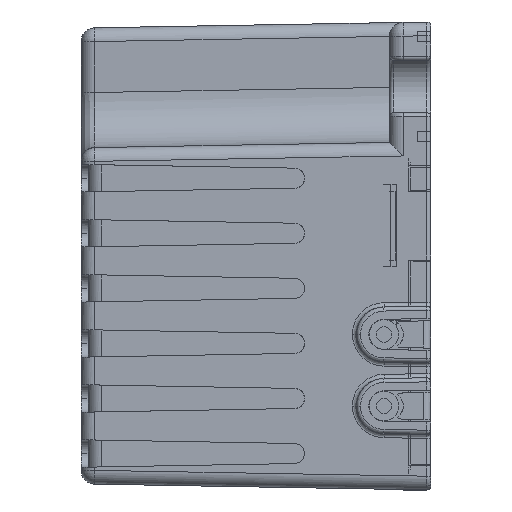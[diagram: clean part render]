
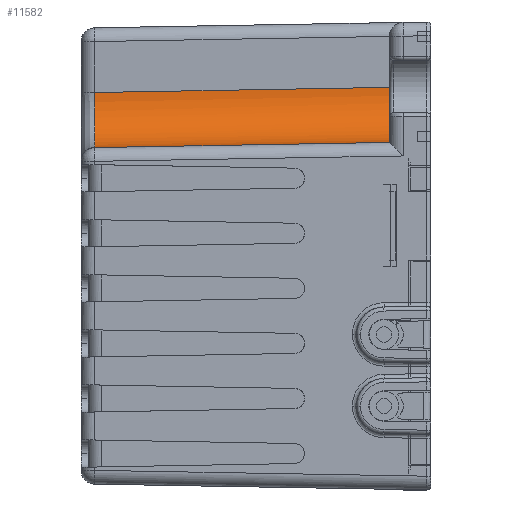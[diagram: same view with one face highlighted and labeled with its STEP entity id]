
A CAD part, left-side view. The second image highlights one B-rep face of the part: STEP entity #11582.
In plain terms, the highlighted cylindrical face has radius 4 mm (diameter 8 mm), a partial arc.
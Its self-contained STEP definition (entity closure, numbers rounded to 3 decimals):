
#2407=DIRECTION('',(-0.017,-0.017,-1.));
#2408=VECTOR('',#2407,21.424);
#2409=CARTESIAN_POINT('',(9.126,5.127,24.417));
#2410=LINE('',#2409,#2408);
#2411=CARTESIAN_POINT('',(4.753,8.752,3.));
#2412=CARTESIAN_POINT('',(5.42,8.752,3.));
#2413=CARTESIAN_POINT('',(6.463,8.463,3.));
#2414=CARTESIAN_POINT('',(7.64,7.64,3.));
#2415=CARTESIAN_POINT('',(8.463,6.463,3.));
#2416=CARTESIAN_POINT('',(8.752,5.42,3.));
#2417=CARTESIAN_POINT('',(8.752,4.753,3.));
#2419=CARTESIAN_POINT('',(9.126,5.127,24.417));
#2420=CARTESIAN_POINT('',(9.126,5.651,24.42));
#2421=CARTESIAN_POINT('',(8.918,6.697,24.423));
#2422=CARTESIAN_POINT('',(8.029,8.029,24.425));
#2423=CARTESIAN_POINT('',(6.697,8.918,24.423));
#2424=CARTESIAN_POINT('',(5.651,9.126,24.42));
#2425=CARTESIAN_POINT('',(5.127,9.126,24.417));
#2427=DIRECTION('',(0.017,0.017,1.));
#2428=VECTOR('',#2427,21.424);
#2429=CARTESIAN_POINT('',(4.753,8.752,3.));
#2430=LINE('',#2429,#2428);
#7464=VERTEX_POINT('',#2419);
#7465=VERTEX_POINT('',#2425);
#7916=CARTESIAN_POINT('',(4.753,8.752,3.));
#7917=VERTEX_POINT('',#7916);
#7918=VERTEX_POINT('',#2417);
#11570=CARTESIAN_POINT('',(4.699,4.699,
-0.012));
#11571=DIRECTION('',(-0.017,-0.017,-1.));
#11572=DIRECTION('',(-1.,0.,0.017));
#11573=AXIS2_PLACEMENT_3D('',#11570,#11571,#11572);
#11574=CYLINDRICAL_SURFACE('',#11573,4.);
#11575=ORIENTED_EDGE('',*,*,#11564,.T.);
#11576=ORIENTED_EDGE('',*,*,#11198,.F.);
#11578=ORIENTED_EDGE('',*,*,#11577,.T.);
#11579=ORIENTED_EDGE('',*,*,#11473,.F.);
#11580=EDGE_LOOP('',(#11575,#11576,#11578,#11579));
#11581=FACE_OUTER_BOUND('',#11580,.F.);
#11582=ADVANCED_FACE('',(#11581),#11574,.F.);
#2418=B_SPLINE_CURVE_WITH_KNOTS('',3,(#2411,#2412,#2413,#2414,#2415,#2416,
#2417),.UNSPECIFIED.,.F.,.F.,(4,1,1,1,4),(0.,0.25,0.5,0.75,1.),
.UNSPECIFIED.);
#2426=B_SPLINE_CURVE_WITH_KNOTS('',3,(#2419,#2420,#2421,#2422,#2423,#2424,
#2425),.UNSPECIFIED.,.F.,.F.,(4,1,1,1,4),(0.,0.25,0.5,0.75,1.),
.UNSPECIFIED.);
#11198=EDGE_CURVE('',#7917,#7918,#2418,.T.);
#11473=EDGE_CURVE('',#7464,#7465,#2426,.T.);
#11564=EDGE_CURVE('',#7464,#7918,#2410,.T.);
#11577=EDGE_CURVE('',#7917,#7465,#2430,.T.);
